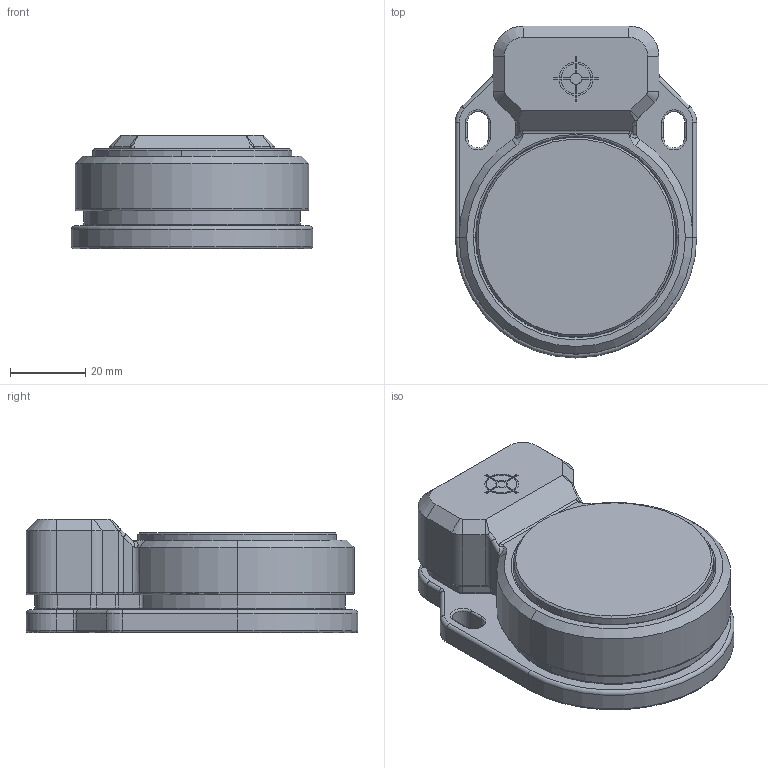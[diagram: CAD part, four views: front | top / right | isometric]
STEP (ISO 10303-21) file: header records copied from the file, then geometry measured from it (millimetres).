
FILE_DESCRIPTION (( 'STEP AP203' ), '1' );
FILE_NAME ('461-Actuator MGL-2P (step format).STEP', '2014-07-30T12:07:34', ( '' ), ( '' ), 'SwSTEP 2.0', 'SolidWorks 2013', '' );
FILE_SCHEMA (( 'CONFIG_CONTROL_DESIGN' ));
Length unit declared in the file: millimetre
Products named in the file (1): 461-Actuator MGL-2P (step format)
Bounding box: 64 x 88 x 30 mm (x, y, z)
Volume: 77725.2 mm3; surface area: 44384.7 mm2
Topology: 5 solids, 5 shells, 503 faces, 1165 edges, 695 vertices
Faces by surface type: cylinder 200, torus 123, plane 123, cone 45, bspline 10, sphere 2
Entity records: 14809 total; most frequent: CARTESIAN_POINT 2948, DIRECTION 2728, ORIENTED_EDGE 2326, EDGE_CURVE 1163, AXIS2_PLACEMENT_3D 1123, VERTEX_POINT 695, CIRCLE 629, EDGE_LOOP 556
